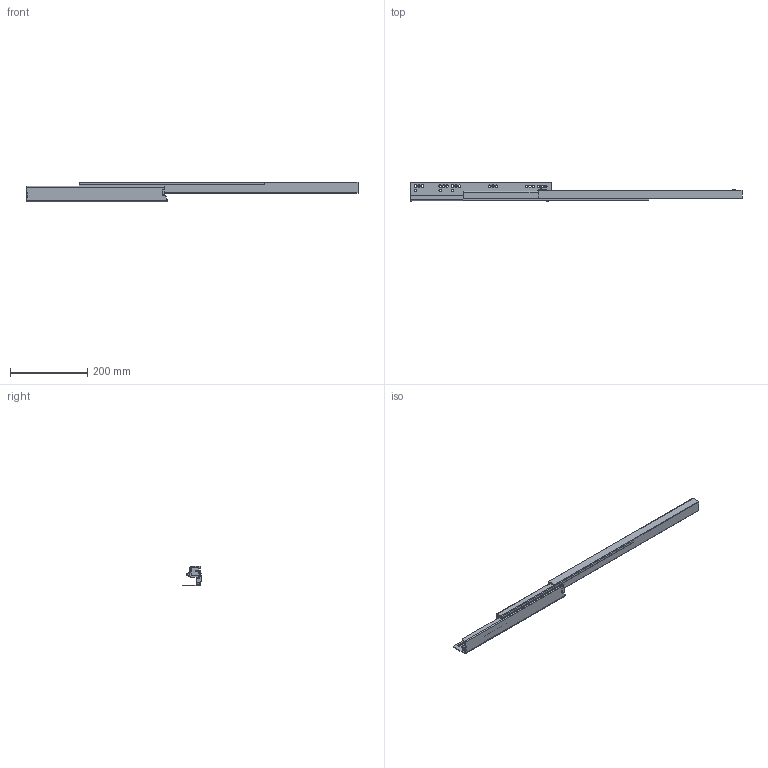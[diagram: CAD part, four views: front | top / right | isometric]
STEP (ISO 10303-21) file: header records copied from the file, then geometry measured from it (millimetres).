
FILE_DESCRIPTION (( 'STEP AP203' ), '1' );
FILE_NAME ('HT105504H-R(´ò¿ª).STEP', '2021-07-31T01:28:47', ( 'Users' ), ( 'Microsoft' ), 'SwSTEP 2.0', 'SolidWorks 2018', '' );
FILE_SCHEMA (( 'CONFIG_CONTROL_DESIGN' ));
Length unit declared in the file: millimetre
Products named in the file (1): HT105504H-R(湖羲)
Bounding box: 861.8 x 47.5 x 51.73 mm (x, y, z)
Volume: 515359.3 mm3; surface area: 144241.7 mm2
Topology: 1 solids, 2 shells, 240 faces, 631 edges, 395 vertices
Faces by surface type: cylinder 105, plane 73, cone 48, torus 12, sphere 2
Entity records: 7578 total; most frequent: DIRECTION 1384, CARTESIAN_POINT 1280, ORIENTED_EDGE 1258, EDGE_CURVE 629, AXIS2_PLACEMENT_3D 519, VERTEX_POINT 395, LINE 346, VECTOR 346
